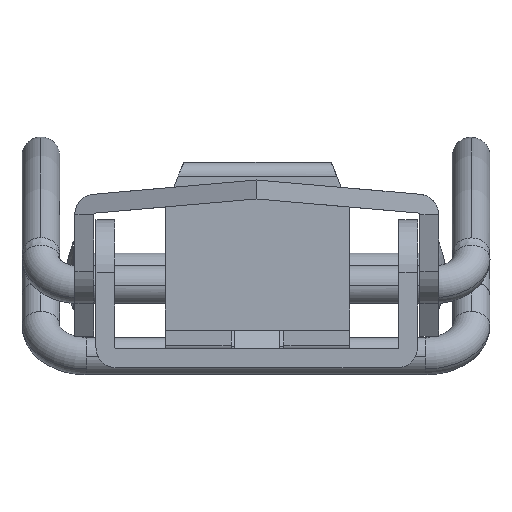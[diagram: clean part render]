
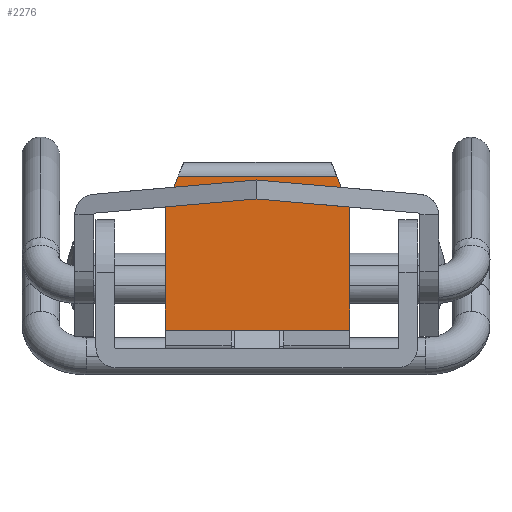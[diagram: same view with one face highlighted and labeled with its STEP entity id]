
A CAD part, front view. The second image highlights one B-rep face of the part: STEP entity #2276.
In plain terms, the highlighted planar face has unit normal (0, -1, 0) as drawn and (-1, 0, 0) by its records, which use the part's own axes.
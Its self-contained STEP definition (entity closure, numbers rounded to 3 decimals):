
#2014 = VERTEX_POINT ( 'NONE', #5479 ) ;
#2053 = EDGE_CURVE ( 'NONE', #2054, #2222, #5570, .T. ) ;
#2054 = VERTEX_POINT ( 'NONE', #5566 ) ;
#2142 = EDGE_CURVE ( 'NONE', #2054, #2291, #5770, .T. ) ;
#2143 = ORIENTED_EDGE ( 'NONE', *, *, #2053, .T. ) ;
#2144 = ORIENTED_EDGE ( 'NONE', *, *, #2145, .F. ) ;
#2145 = EDGE_CURVE ( 'NONE', #2014, #2222, #5746, .T. ) ;
#2175 = VERTEX_POINT ( 'NONE', #5624 ) ;
#2178 = EDGE_CURVE ( 'NONE', #2175, #2014, #5622, .T. ) ;
#2222 = VERTEX_POINT ( 'NONE', #5969 ) ;
#2276 = ADVANCED_FACE ( 'NONE', ( #5941 ), #5908, .F. ) ;
#2277 = EDGE_LOOP ( 'NONE', ( #2278, #2279, #2281, #2282, #2143, #2144 ) ) ;
#2278 = ORIENTED_EDGE ( 'NONE', *, *, #2178, .F. ) ;
#2279 = ORIENTED_EDGE ( 'NONE', *, *, #2280, .F. ) ;
#2280 = EDGE_CURVE ( 'NONE', #2290, #2175, #5790, .T. ) ;
#2281 = ORIENTED_EDGE ( 'NONE', *, *, #2289, .T. ) ;
#2282 = ORIENTED_EDGE ( 'NONE', *, *, #2142, .F. ) ;
#2289 = EDGE_CURVE ( 'NONE', #2290, #2291, #5861, .T. ) ;
#2290 = VERTEX_POINT ( 'NONE', #5853 ) ;
#2291 = VERTEX_POINT ( 'NONE', #5852 ) ;
#5479 = CARTESIAN_POINT ( 'NONE',  ( -3.1, 1.4, 12.2 ) ) ;
#5566 = CARTESIAN_POINT ( 'NONE',  ( -3.1, 9.5, 0. ) ) ;
#5567 = DIRECTION ( 'NONE',  ( 0., -1., 0. ) ) ;
#5568 = VECTOR ( 'NONE', #5567, 1000. ) ;
#5569 = CARTESIAN_POINT ( 'NONE',  ( -3.1, 1.4, 0. ) ) ;
#5570 = LINE ( 'NONE', #5569, #5568 ) ;
#5619 = DIRECTION ( 'NONE',  ( 0., -1., 0. ) ) ;
#5620 = VECTOR ( 'NONE', #5619, 1000. ) ;
#5621 = CARTESIAN_POINT ( 'NONE',  ( -3.1, 1.4, 12.2 ) ) ;
#5622 = LINE ( 'NONE', #5621, #5620 ) ;
#5624 = CARTESIAN_POINT ( 'NONE',  ( -3.1, 9.5, 12.2 ) ) ;
#5743 = DIRECTION ( 'NONE',  ( 0., 0., -1. ) ) ;
#5744 = VECTOR ( 'NONE', #5743, 1000. ) ;
#5745 = CARTESIAN_POINT ( 'NONE',  ( -3.1, 1.4, 12.2 ) ) ;
#5746 = LINE ( 'NONE', #5745, #5744 ) ;
#5767 = DIRECTION ( 'NONE',  ( 0., 0.927, 0.375 ) ) ;
#5768 = VECTOR ( 'NONE', #5767, 1000. ) ;
#5769 = CARTESIAN_POINT ( 'NONE',  ( -3.1, 14.131, 1.871 ) ) ;
#5770 = LINE ( 'NONE', #5769, #5768 ) ;
#5787 = DIRECTION ( 'NONE',  ( 0., -0.927, 0.375 ) ) ;
#5788 = VECTOR ( 'NONE', #5787, 1000. ) ;
#5789 = CARTESIAN_POINT ( 'NONE',  ( -3.1, 14.131, 10.329 ) ) ;
#5790 = LINE ( 'NONE', #5789, #5788 ) ;
#5852 = CARTESIAN_POINT ( 'NONE',  ( -3.1, 11.6, 0.848 ) ) ;
#5853 = CARTESIAN_POINT ( 'NONE',  ( -3.1, 11.6, 11.352 ) ) ;
#5854 = DIRECTION ( 'NONE',  ( 0., 0., -1. ) ) ;
#5855 = VECTOR ( 'NONE', #5854, 1000. ) ;
#5856 = CARTESIAN_POINT ( 'NONE',  ( -3.1, 11.6, 12.2 ) ) ;
#5861 = LINE ( 'NONE', #5856, #5855 ) ;
#5904 = DIRECTION ( 'NONE',  ( 0., 1., 0. ) ) ;
#5905 = DIRECTION ( 'NONE',  ( 1., 0., 0. ) ) ;
#5906 = CARTESIAN_POINT ( 'NONE',  ( -3.1, 1.4, 12.2 ) ) ;
#5907 = AXIS2_PLACEMENT_3D ( 'NONE', #5906, #5905, #5904 ) ;
#5908 = PLANE ( 'NONE',  #5907 ) ;
#5941 = FACE_OUTER_BOUND ( 'NONE', #2277, .T. ) ;
#5969 = CARTESIAN_POINT ( 'NONE',  ( -3.1, 1.4, 0. ) ) ;
